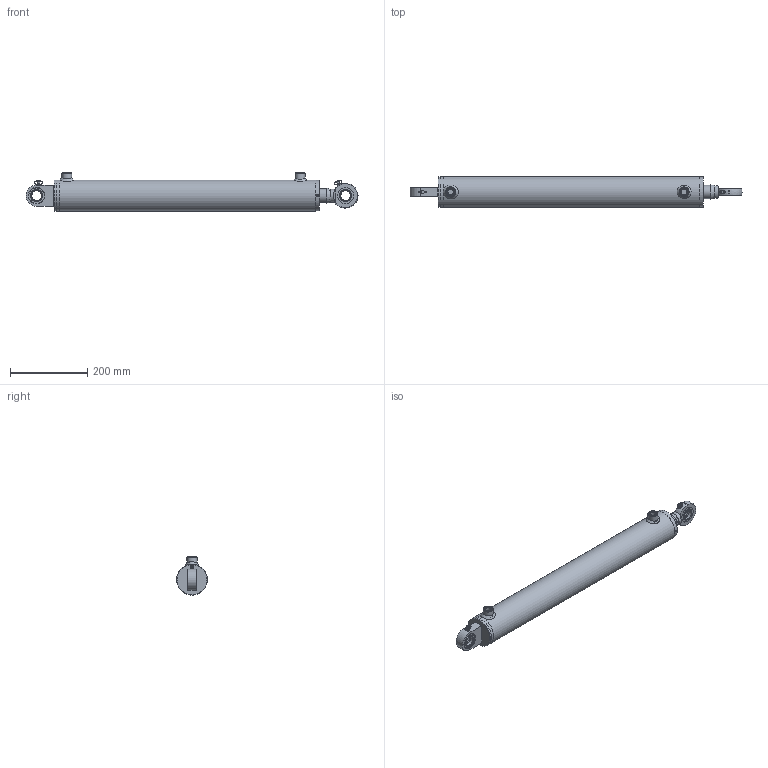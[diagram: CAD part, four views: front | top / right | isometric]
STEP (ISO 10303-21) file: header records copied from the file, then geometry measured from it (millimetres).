
FILE_DESCRIPTION( ( 'Unknown' ), '1' );
FILE_NAME( 'E:/LIBRERIA_3d/CILINDRI/HMB/HMB4350550.stp', 'Unknown', ( 'Unknown' ), ( 'Unknown' ), 'PSStep 17.0.49', 'Unknown', ' ' );
FILE_SCHEMA( ( 'AUTOMOTIVE_DESIGN { 1 0 10303 214 1 1 1 1 }' ) );
Length unit declared in the file: millimetre
Products named in the file (35): CG08007035; CSTSF025C0; tsc25c_CORPO; AN00006001; CT00070020; STL4500550-oa6; Saldatura d'angolo 1-oa4; FTM4500550-oa5; CBSC220600; CSTSF025N0; An00006001; CSTS025N_CORPO; CSAI002042; CSAI002042-oa0; CSTS025C00; cge0250000; APGR013000; HM04350550; Saldatura con preparazione 1-oa2; Saldatura d'angolo 1-oa3; CF00070080; CBS0600000; APG0600000; CDA0002015; SBL3530550; CSTS025N00; CGE0250000; Assem1; Saldatura d'angolo 2-oa1
Assembly tree (32 placements, depth 4):
  Saldatura d'angolo 1-oa4
  Saldatura d'angolo 1-oa4
  Saldatura d'angolo 1-oa3
  Saldatura d'angolo 1-oa3
  Assem1
    APGR013000  x2
    CSTS025N00
      CGE0250000
      APGR013000
      CSTSF025N0
        An00006001
        CSTS025N_CORPO
        CSAI002042
        CSAI002042-oa0
    CSTS025C00
      cge0250000
      APGR013000
      CSTSF025C0
        tsc25c_CORPO
        AN00006001
    HM04350550
      Saldatura con preparazione 1-oa2
      Saldatura con preparazione 1-oa2
      CF00070080
      CBS0600000
      APG0600000  x2
      CDA0002015
      SBL3530550
      CG08007035
        CG08007035
      CT00070020
        CT00070020
      STL4500550-oa6
        FTM4500550-oa5
        CBSC220600
Bounding box: 859.5 x 80 x 99 mm (x, y, z)
Volume: 1891478.6 mm3; surface area: 528899.7 mm2
Topology: 30 solids, 30 shells, 365 faces, 750 edges, 478 vertices
Faces by surface type: plane 138, cylinder 101, torus 45, cone 44, bspline 30, sphere 7
Full cylindrical faces by diameter (mm): 2 x4, 4 x1, 4.25 x1, 5 x12, 6 x4, 7 x2, 8 x4, 9 x4, 14.95 x2, 16 x2, 16.6 x2, 19.4 x1, 20 x5, 22 x2, 24.5 x1, 25 x4, 26 x2, 30 x1, 33.5 x3, 35 x4, 37 x1, 38 x1, 40 x2, 42 x8, 43.6 x1, 45 x1, 50 x1, 64.18 x2, 65 x1, 68.34 x2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
Entity records: 14180 total; most frequent: CARTESIAN_POINT 5895, DIRECTION 1276, ORIENTED_EDGE 764, AXIS2_PLACEMENT_3D 595, EDGE_LOOP 570, FACE_OUTER_BOUND 448, EDGE_CURVE 382, VERTEX_POINT 346
